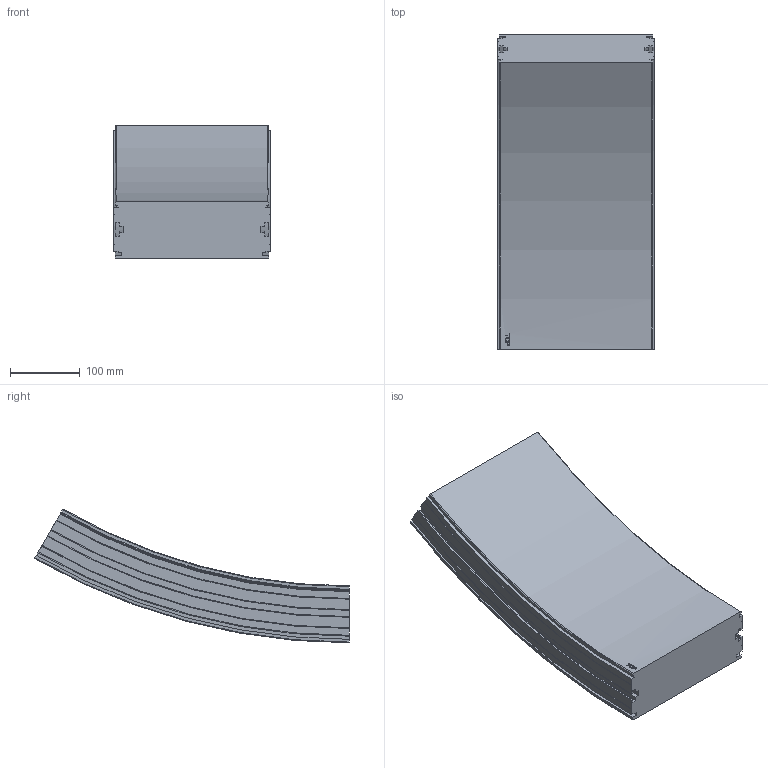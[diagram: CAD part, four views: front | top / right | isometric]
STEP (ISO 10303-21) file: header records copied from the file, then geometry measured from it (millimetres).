
FILE_DESCRIPTION(/* description */ ('VERTIKALKURVA S220 R860'),/* implementation_level */ '2;1');
FILE_NAME(/* name */ '\\carryline.intra\privat\users\mathias\Desktop\Tillfälliga filer\220-5695+220-2000-UPP-01.stp',/* time_stamp */ '2018-11-29T14:57:07+01:00',/* author */ ('MD'),/* organization */ ('CARRYLINE'),/* preprocessor_version */ 'ST-DEVELOPER v17',/* originating_system */ 'Autodesk Inventor 2018',/* authorisation */ '');
FILE_SCHEMA (('AUTOMOTIVE_DESIGN { 1 0 10303 214 3 1 1 }'));
Length unit declared in the file: millimetre
Products named in the file (1): 220-5695+220-2000-UPP-01
Bounding box: 224 x 451 x 191.43 mm (x, y, z)
Volume: 7978584.1 mm3; surface area: 375272.7 mm2
Topology: 1 solids, 1 shells, 113 faces, 318 edges, 212 vertices
Faces by surface type: plane 48, cylinder 31, bspline 14, cone 14, torus 6
Entity records: 8349 total; most frequent: CARTESIAN_POINT 5381, ORIENTED_EDGE 636, DIRECTION 576, EDGE_CURVE 318, VERTEX_POINT 212, AXIS2_PLACEMENT_3D 199, LINE 178, VECTOR 178
